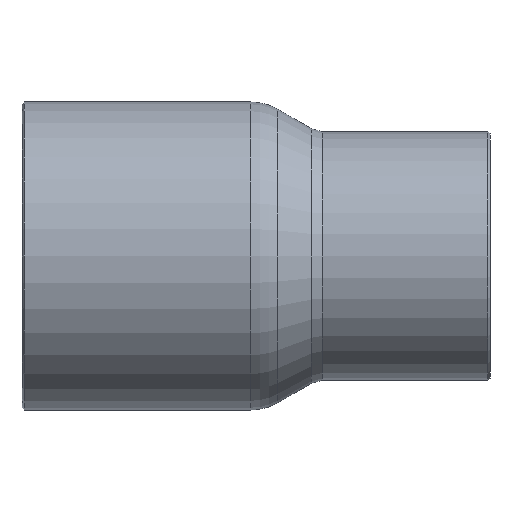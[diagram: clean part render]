
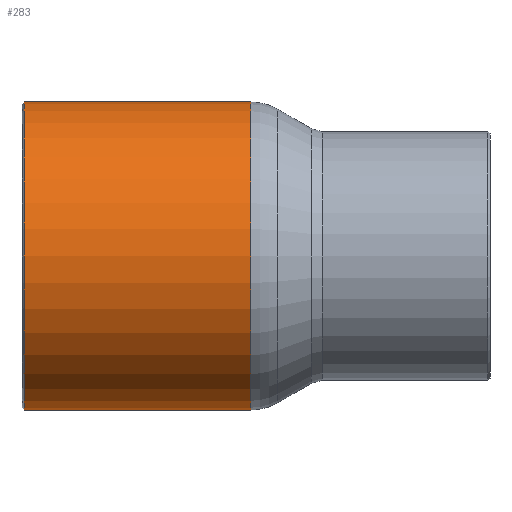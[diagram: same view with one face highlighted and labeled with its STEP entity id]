
A CAD part, front view. The second image highlights one B-rep face of the part: STEP entity #283.
In plain terms, the highlighted cylindrical face has radius 14.287 mm (diameter 28.575 mm), a full revolution.
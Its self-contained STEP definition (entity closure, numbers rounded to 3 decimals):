
#252=CARTESIAN_POINT('',(-29.9,14.288,0.));
#253=VERTEX_POINT('',#252);
#254=CARTESIAN_POINT('',(-29.9,0.0,0.0));
#255=DIRECTION('',(-1.0,0.0,0.0));
#256=DIRECTION('',(0.0,-1.0,0.0));
#257=AXIS2_PLACEMENT_3D('',#254,#255,#256);
#258=CIRCLE('',#257,14.288);
#259=EDGE_CURVE('',#253,#253,#258,.T.);
#264=CARTESIAN_POINT('',(-19.5,0.0,0.0));
#265=DIRECTION('',(1.0,0.0,0.0));
#266=DIRECTION('',(0.0,1.0,0.0));
#267=AXIS2_PLACEMENT_3D('',#264,#265,#266);
#268=CYLINDRICAL_SURFACE('',#267,14.288);
#269=CARTESIAN_POINT('',(-8.9,14.288,0.0));
#270=VERTEX_POINT('',#269);
#271=CARTESIAN_POINT('',(-8.9,0.0,0.0));
#272=DIRECTION('',(1.0,0.0,0.0));
#273=DIRECTION('',(0.0,1.0,0.0));
#274=AXIS2_PLACEMENT_3D('',#271,#272,#273);
#275=CIRCLE('',#274,14.288);
#276=EDGE_CURVE('',#270,#270,#275,.T.);
#277=ORIENTED_EDGE('',*,*,#276,.F.);
#278=EDGE_LOOP('',(#277));
#279=FACE_OUTER_BOUND('',#278,.T.);
#280=ORIENTED_EDGE('',*,*,#259,.F.);
#281=EDGE_LOOP('',(#280));
#282=FACE_BOUND('',#281,.T.);
#283=ADVANCED_FACE('',(#279,#282),#268,.T.);
